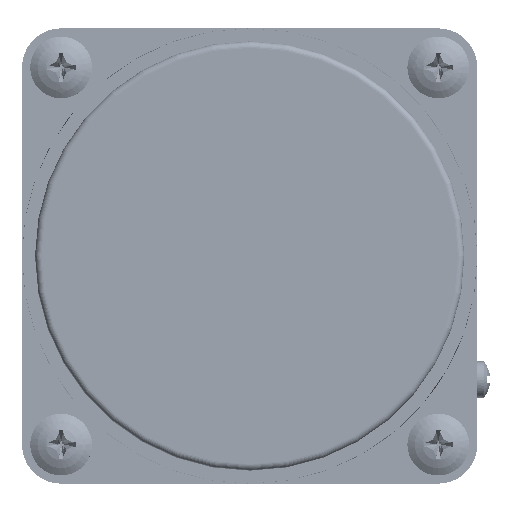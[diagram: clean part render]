
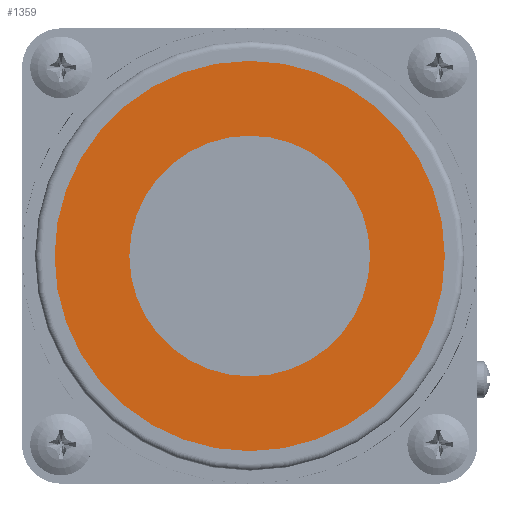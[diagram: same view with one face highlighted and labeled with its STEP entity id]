
A CAD part, left-side view. The second image highlights one B-rep face of the part: STEP entity #1359.
In plain terms, the highlighted planar face has unit normal (-1, 0, 0).
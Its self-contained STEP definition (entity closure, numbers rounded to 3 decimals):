
#513=FACE_BOUND('',#1944,.T.);
#514=FACE_BOUND('',#1945,.T.);
#872=PLANE('',#5164);
#1359=ADVANCED_FACE('',(#513,#514),#872,.T.);
#1944=EDGE_LOOP('',(#2422));
#1945=EDGE_LOOP('',(#2423));
#2422=ORIENTED_EDGE('',*,*,#4155,.F.);
#2423=ORIENTED_EDGE('',*,*,#4154,.F.);
#3680=VERTEX_POINT('',#6772);
#3681=VERTEX_POINT('',#6775);
#4154=EDGE_CURVE('',#3680,#3680,#4830,.T.);
#4155=EDGE_CURVE('',#3681,#3681,#4831,.T.);
#4830=CIRCLE('',#5161,30.);
#4831=CIRCLE('',#5163,18.5);
#5161=AXIS2_PLACEMENT_3D('',#6771,#5703,#5704);
#5163=AXIS2_PLACEMENT_3D('',#6774,#5707,#5708);
#5164=AXIS2_PLACEMENT_3D('',#6776,#5709,#5710);
#5703=DIRECTION('',(1.,0.,0.));
#5704=DIRECTION('',(0.,0.,-1.));
#5707=DIRECTION('',(-1.,0.,0.));
#5708=DIRECTION('',(0.,0.,-1.));
#5709=DIRECTION('',(-1.,0.,0.));
#5710=DIRECTION('',(0.,0.,-1.));
#6771=CARTESIAN_POINT('',(-79.,0.,0.));
#6772=CARTESIAN_POINT('',(-79.,0.,-30.));
#6774=CARTESIAN_POINT('',(-79.,0.,0.));
#6775=CARTESIAN_POINT('',(-79.,0.,-18.5));
#6776=CARTESIAN_POINT('',(-79.,0.,0.));
